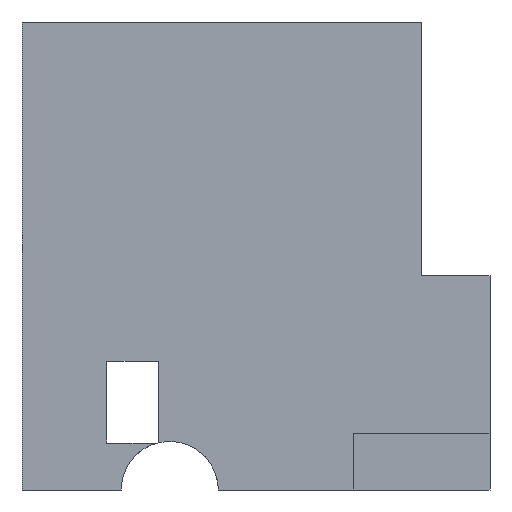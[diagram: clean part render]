
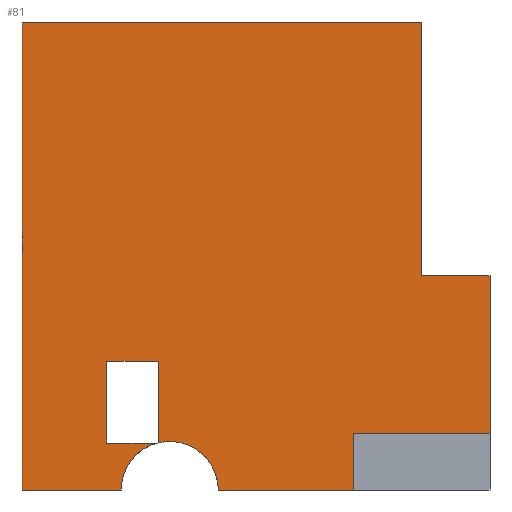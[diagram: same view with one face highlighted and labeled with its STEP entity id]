
A CAD part, front view. The second image highlights one B-rep face of the part: STEP entity #81.
In plain terms, the highlighted planar face has unit normal (0, -1, 0).
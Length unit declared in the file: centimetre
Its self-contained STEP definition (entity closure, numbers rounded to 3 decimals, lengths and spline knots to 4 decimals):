
#2 = VERTEX_POINT ( 'NONE', #531 ) ;
#3 = DIRECTION ( 'NONE',  ( 0., -1., 0. ) ) ;
#44 = AXIS2_PLACEMENT_3D ( 'NONE', #880, #3, #772 ) ;
#53 = ORIENTED_EDGE ( 'NONE', *, *, #1016, .T. ) ;
#61 = CARTESIAN_POINT ( 'NONE',  ( 0., 0., 1000. ) ) ;
#78 = DIRECTION ( 'NONE',  ( 0., 0., -1. ) ) ;
#81 = ADVANCED_FACE ( 'NONE', ( #917 ), #809, .F. ) ;
#88 = ORIENTED_EDGE ( 'NONE', *, *, #428, .F. ) ;
#90 = CARTESIAN_POINT ( 'NONE',  ( 853.6505, 0., 457.3387 ) ) ;
#92 = CARTESIAN_POINT ( 'NONE',  ( 709.116, 0., 119.999 ) ) ;
#95 = ORIENTED_EDGE ( 'NONE', *, *, #1164, .T. ) ;
#105 = LINE ( 'NONE', #985, #820 ) ;
#111 = CARTESIAN_POINT ( 'NONE',  ( 291.7236, 0., 274.9221 ) ) ;
#117 = DIRECTION ( 'NONE',  ( 0., 0., 1. ) ) ;
#122 = LINE ( 'NONE', #560, #1393 ) ;
#129 = ORIENTED_EDGE ( 'NONE', *, *, #1161, .T. ) ;
#131 = VECTOR ( 'NONE', #1034, 100. ) ;
#132 = VECTOR ( 'NONE', #1285, 100. ) ;
#191 = VERTEX_POINT ( 'NONE', #903 ) ;
#198 = EDGE_CURVE ( 'NONE', #646, #511, #1239, .T. ) ;
#209 = LINE ( 'NONE', #1194, #350 ) ;
#243 = LINE ( 'NONE', #366, #131 ) ;
#248 = ORIENTED_EDGE ( 'NONE', *, *, #198, .F. ) ;
#276 = ORIENTED_EDGE ( 'NONE', *, *, #315, .F. ) ;
#278 = VERTEX_POINT ( 'NONE', #90 ) ;
#297 = LINE ( 'NONE', #968, #1278 ) ;
#315 = EDGE_CURVE ( 'NONE', #191, #1126, #1383, .T. ) ;
#349 = ORIENTED_EDGE ( 'NONE', *, *, #479, .T. ) ;
#350 = VECTOR ( 'NONE', #667, 100. ) ;
#356 = CARTESIAN_POINT ( 'NONE',  ( 853.6505, 0., 457.3387 ) ) ;
#366 = CARTESIAN_POINT ( 'NONE',  ( 181.0286, 0., 100.3764 ) ) ;
#420 = VECTOR ( 'NONE', #489, 100. ) ;
#428 = EDGE_CURVE ( 'NONE', #568, #782, #105, .T. ) ;
#429 = LINE ( 'NONE', #356, #840 ) ;
#466 = CARTESIAN_POINT ( 'NONE',  ( 853.6505, 0., 1000. ) ) ;
#476 = VERTEX_POINT ( 'NONE', #570 ) ;
#479 = EDGE_CURVE ( 'NONE', #1183, #782, #122, .T. ) ;
#485 = DIRECTION ( 'NONE',  ( 1., 0., 0. ) ) ;
#489 = DIRECTION ( 'NONE',  ( 0., 0., -1. ) ) ;
#511 = VERTEX_POINT ( 'NONE', #466 ) ;
#531 = CARTESIAN_POINT ( 'NONE',  ( 211.7579, 0., 0. ) ) ;
#543 = LINE ( 'NONE', #869, #886 ) ;
#560 = CARTESIAN_POINT ( 'NONE',  ( 0., 0., 0. ) ) ;
#568 = VERTEX_POINT ( 'NONE', #812 ) ;
#570 = CARTESIAN_POINT ( 'NONE',  ( 181.0286, 0., 274.9221 ) ) ;
#584 = ORIENTED_EDGE ( 'NONE', *, *, #1018, .T. ) ;
#591 = CARTESIAN_POINT ( 'NONE',  ( 0., 0., 1000. ) ) ;
#609 = CARTESIAN_POINT ( 'NONE',  ( 289.0547, 0., 100.3764 ) ) ;
#612 = AXIS2_PLACEMENT_3D ( 'NONE', #942, #697, #1132 ) ;
#613 = CIRCLE ( 'NONE', #44, 103.822 ) ;
#638 = CIRCLE ( 'NONE', #868, 103.822 ) ;
#646 = VERTEX_POINT ( 'NONE', #591 ) ;
#649 = CARTESIAN_POINT ( 'NONE',  ( 419.4019, 0., 0. ) ) ;
#667 = DIRECTION ( 'NONE',  ( 0., 0., -1. ) ) ;
#672 = EDGE_CURVE ( 'NONE', #646, #1382, #1258, .T. ) ;
#688 = CARTESIAN_POINT ( 'NONE',  ( 0., 0., 1000. ) ) ;
#697 = DIRECTION ( 'NONE',  ( 0., 1., 0. ) ) ;
#724 = DIRECTION ( 'NONE',  ( 1., 0., 0. ) ) ;
#726 = VECTOR ( 'NONE', #1317, 100. ) ;
#740 = DIRECTION ( 'NONE',  ( 1., 0., 0. ) ) ;
#745 = ORIENTED_EDGE ( 'NONE', *, *, #831, .T. ) ;
#761 = VERTEX_POINT ( 'NONE', #609 ) ;
#772 = DIRECTION ( 'NONE',  ( 0., 0., -1. ) ) ;
#782 = VERTEX_POINT ( 'NONE', #851 ) ;
#788 = DIRECTION ( 'NONE',  ( 0., 0., -1. ) ) ;
#809 = PLANE ( 'NONE',  #612 ) ;
#810 = DIRECTION ( 'NONE',  ( 0., 0., 1. ) ) ;
#812 = CARTESIAN_POINT ( 'NONE',  ( 709.116, 0., 119.999 ) ) ;
#820 = VECTOR ( 'NONE', #788, 100. ) ;
#827 = VERTEX_POINT ( 'NONE', #1200 ) ;
#831 = EDGE_CURVE ( 'NONE', #926, #1397, #209, .T. ) ;
#840 = VECTOR ( 'NONE', #724, 100. ) ;
#848 = CARTESIAN_POINT ( 'NONE',  ( 291.7236, 0., 101.044 ) ) ;
#851 = CARTESIAN_POINT ( 'NONE',  ( 709.116, 0., 0. ) ) ;
#868 = AXIS2_PLACEMENT_3D ( 'NONE', #1294, #1104, #78 ) ;
#869 = CARTESIAN_POINT ( 'NONE',  ( 0., 0., 0. ) ) ;
#878 = ORIENTED_EDGE ( 'NONE', *, *, #1127, .F. ) ;
#880 = CARTESIAN_POINT ( 'NONE',  ( 315.5799, 0., 0. ) ) ;
#886 = VECTOR ( 'NONE', #993, 100. ) ;
#899 = LINE ( 'NONE', #1234, #1145 ) ;
#903 = CARTESIAN_POINT ( 'NONE',  ( 1000., 0., 457.3387 ) ) ;
#905 = EDGE_CURVE ( 'NONE', #1382, #2, #543, .T. ) ;
#908 = ORIENTED_EDGE ( 'NONE', *, *, #672, .T. ) ;
#917 = FACE_OUTER_BOUND ( 'NONE', #1208, .T. ) ;
#926 = VERTEX_POINT ( 'NONE', #111 ) ;
#942 = CARTESIAN_POINT ( 'NONE',  ( 0., 0., 1000. ) ) ;
#968 = CARTESIAN_POINT ( 'NONE',  ( 181.0286, 0., 274.9221 ) ) ;
#976 = CARTESIAN_POINT ( 'NONE',  ( 0., 0., 0. ) ) ;
#980 = LINE ( 'NONE', #1221, #1124 ) ;
#985 = CARTESIAN_POINT ( 'NONE',  ( 709.116, 0., 0. ) ) ;
#993 = DIRECTION ( 'NONE',  ( 1., 0., 0. ) ) ;
#1003 = DIRECTION ( 'NONE',  ( 1., 0., 0. ) ) ;
#1007 = VECTOR ( 'NONE', #485, 100. ) ;
#1010 = ORIENTED_EDGE ( 'NONE', *, *, #905, .T. ) ;
#1016 = EDGE_CURVE ( 'NONE', #827, #476, #899, .T. ) ;
#1018 = EDGE_CURVE ( 'NONE', #761, #827, #243, .T. ) ;
#1026 = ORIENTED_EDGE ( 'NONE', *, *, #1424, .T. ) ;
#1034 = DIRECTION ( 'NONE',  ( -1., 0., 0. ) ) ;
#1098 = CARTESIAN_POINT ( 'NONE',  ( 1000., 0., 119.999 ) ) ;
#1104 = DIRECTION ( 'NONE',  ( 0., -1., 0. ) ) ;
#1124 = VECTOR ( 'NONE', #117, 100. ) ;
#1126 = VERTEX_POINT ( 'NONE', #1098 ) ;
#1127 = EDGE_CURVE ( 'NONE', #761, #2, #613, .T. ) ;
#1132 = DIRECTION ( 'NONE',  ( 0., 0., 1. ) ) ;
#1145 = VECTOR ( 'NONE', #810, 100. ) ;
#1161 = EDGE_CURVE ( 'NONE', #568, #1126, #1198, .T. ) ;
#1164 = EDGE_CURVE ( 'NONE', #278, #511, #980, .T. ) ;
#1183 = VERTEX_POINT ( 'NONE', #649 ) ;
#1194 = CARTESIAN_POINT ( 'NONE',  ( 291.7236, 0., 100.3764 ) ) ;
#1198 = LINE ( 'NONE', #92, #726 ) ;
#1200 = CARTESIAN_POINT ( 'NONE',  ( 181.0286, 0., 100.3764 ) ) ;
#1208 = EDGE_LOOP ( 'NONE', ( #1010, #878, #584, #53, #1026, #745, #1365, #349, #88, #129, #276, #1314, #95, #248, #908 ) ) ;
#1221 = CARTESIAN_POINT ( 'NONE',  ( 853.6505, 0., 457.3387 ) ) ;
#1226 = EDGE_CURVE ( 'NONE', #278, #191, #429, .T. ) ;
#1234 = CARTESIAN_POINT ( 'NONE',  ( 181.0286, 0., 100.3764 ) ) ;
#1239 = LINE ( 'NONE', #688, #1007 ) ;
#1258 = LINE ( 'NONE', #61, #420 ) ;
#1278 = VECTOR ( 'NONE', #740, 100. ) ;
#1285 = DIRECTION ( 'NONE',  ( 0., 0., -1. ) ) ;
#1294 = CARTESIAN_POINT ( 'NONE',  ( 315.5799, 0., 0. ) ) ;
#1301 = CARTESIAN_POINT ( 'NONE',  ( 1000., 0., 1000. ) ) ;
#1314 = ORIENTED_EDGE ( 'NONE', *, *, #1226, .F. ) ;
#1317 = DIRECTION ( 'NONE',  ( 1., 0., 0. ) ) ;
#1334 = EDGE_CURVE ( 'NONE', #1183, #1397, #638, .T. ) ;
#1365 = ORIENTED_EDGE ( 'NONE', *, *, #1334, .F. ) ;
#1382 = VERTEX_POINT ( 'NONE', #976 ) ;
#1383 = LINE ( 'NONE', #1301, #132 ) ;
#1393 = VECTOR ( 'NONE', #1003, 100. ) ;
#1397 = VERTEX_POINT ( 'NONE', #848 ) ;
#1424 = EDGE_CURVE ( 'NONE', #476, #926, #297, .T. ) ;
